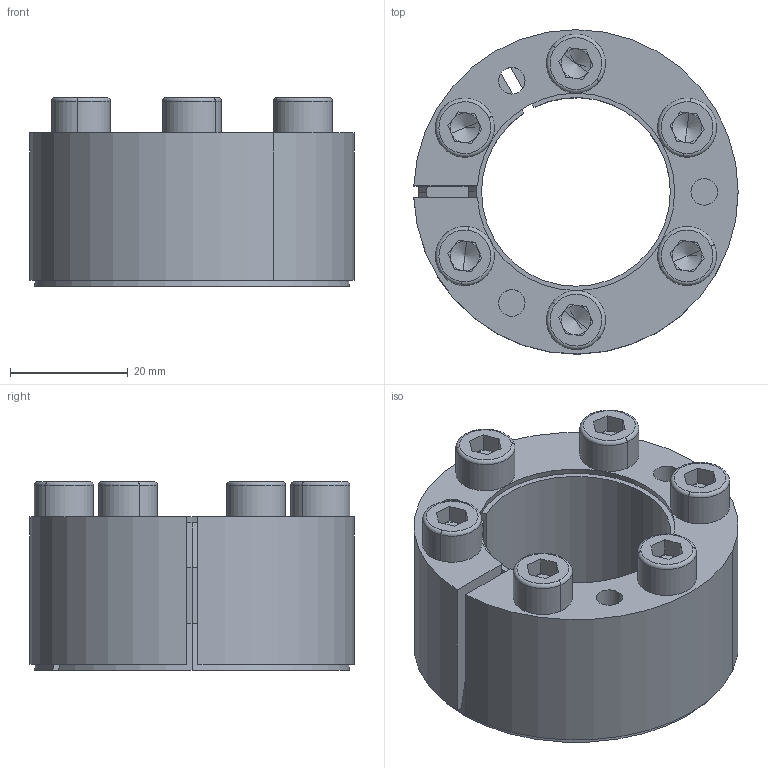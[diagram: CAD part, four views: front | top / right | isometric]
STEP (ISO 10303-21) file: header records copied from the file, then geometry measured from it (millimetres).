
FILE_DESCRIPTION (( 'STEP AP214' ), '1' );
FILE_NAME ('CONEX-K-32x55.step', '2013-04-06T13:21:04', ( 'Pc' ), ( '' ), 'SwSTEP 2.0', 'SolidWorks 2013', '' );
FILE_SCHEMA (( 'AUTOMOTIVE_DESIGN' ));
Length unit declared in the file: millimetre
Products named in the file (1): CONEX-K-32x55
Bounding box: 54.98 x 55 x 32.02 mm (x, y, z)
Volume: 34292.5 mm3; surface area: 25501.2 mm2
Topology: 8 solids, 8 shells, 226 faces, 524 edges, 314 vertices
Faces by surface type: plane 100, cylinder 66, cone 36, torus 24
Entity records: 8977 total; most frequent: DIRECTION 1204, CARTESIAN_POINT 1077, ORIENTED_EDGE 1024, EDGE_CURVE 512, AXIS2_PLACEMENT_3D 473, VERTEX_POINT 314, EDGE_LOOP 268, VECTOR 258
